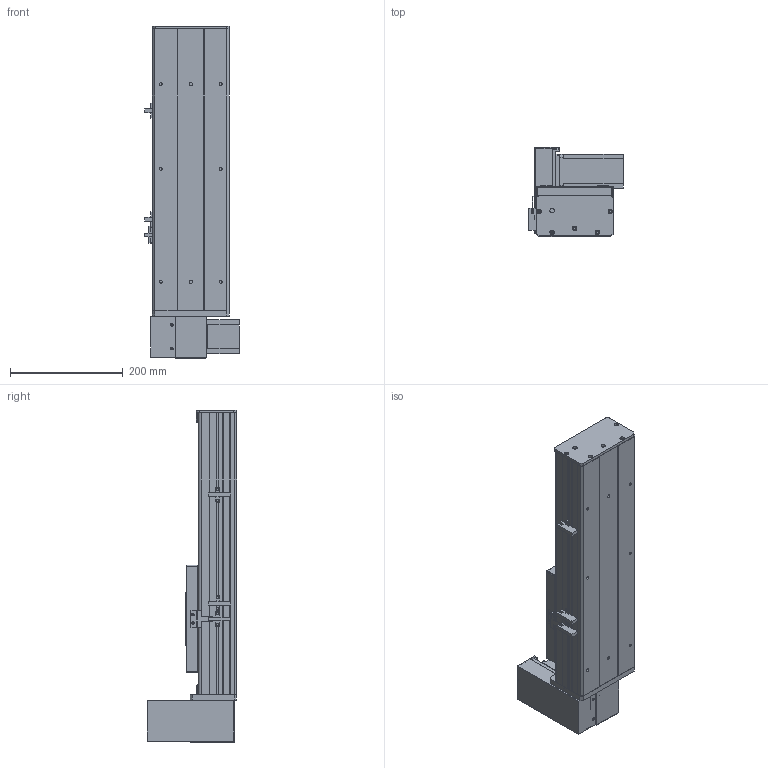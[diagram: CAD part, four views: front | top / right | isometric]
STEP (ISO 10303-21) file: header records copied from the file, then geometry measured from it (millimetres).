
FILE_DESCRIPTION (( 'STEP AP203' ), '1' );
FILE_NAME ('Y135CB-D90-S200-UR-P400W.STEP', '2020-02-18T03:29:33', ( '微软用户' ), ( '微软中国' ), 'SwSTEP 2.0', 'SolidWorks 2017', '' );
FILE_SCHEMA (( 'CONFIG_CONTROL_DESIGN' ));
Length unit declared in the file: millimetre
Products named in the file (18): 0B-埴倛裔啣; Y100-135俋离換覜ん--; 0B-源倛裔啣; Y135C-陔俋离換覜結え-; 0B-萇儂楊擘啣; 5C--俋欶; san松下电机400不带刹车----; C-雄赽釱--; 5CB --掛极耜裔啣-; Y10B--々湍喘謫眊--666; C-詩湍揤踡え-陔; Y135CB-耜裔; Y10B-耜蚾蟀諉啣----; 135CB---遴掛极.-; 00B-俋欶BM--; 35CB---喘謫眊楊擘啣; Y135CB-D90-S200-UR-P400W; 135CB--詩湍-CE
Assembly tree (21 placements, depth 2):
  Y135CB-D90-S200-UR-P400W
    Y135CB-耜裔
    135CB---遴掛极.-
    35CB---喘謫眊楊擘啣
    0B-埴倛裔啣
    0B-源倛裔啣
    0B-萇儂楊擘啣
    san松下电机400不带刹车----
    5CB --掛极耜裔啣-  x2
    C-詩湍揤踡え-陔  x2
    135CB--詩湍-CE
    Y100-135俋离換覜ん--  x3
    Y135C-陔俋离換覜結え-
    5C--俋欶
    C-雄赽釱--
    Y10B--々湍喘謫眊--666
    Y10B-耜蚾蟀諉啣----
    00B-俋欶BM--
Bounding box: 167.5 x 158.7 x 588 mm (x, y, z)
Volume: 2308923.7 mm3; surface area: 882202.2 mm2
Topology: 21 solids, 21 shells, 929 faces, 2455 edges, 1626 vertices
Faces by surface type: cylinder 457, plane 456, cone 16
Entity records: 28541 total; most frequent: DIRECTION 4739, CARTESIAN_POINT 4636, ORIENTED_EDGE 4386, EDGE_CURVE 2193, AXIS2_PLACEMENT_3D 1721, VERTEX_POINT 1454, VECTOR 1297, LINE 1297
